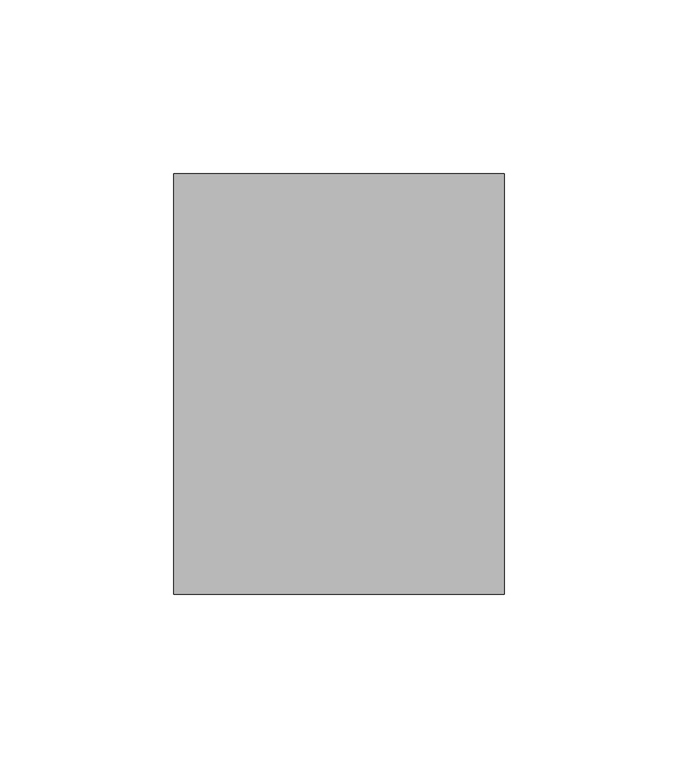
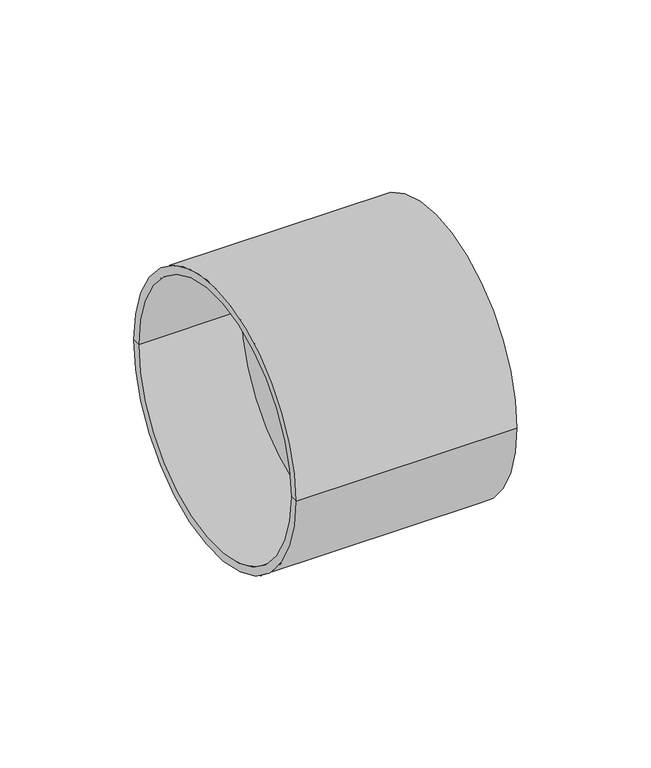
"""IFC4 building model written with IfcOpenShell, lengths in millimetres: cable carrier fitting geometry, PavcoWavin_ConduitFittings_Union : EB y DB."""

import ifcopenshell
import ifcopenshell.guid

model = None  # the IFC model being written
_history = None  # IfcOwnerHistory: only IFC2X3 demands one
_inside = {}  # id of a spatial element -> (the spatial element, [elements in it])
_under = {}  # id of a project, library or spatial element -> (it, [spatial elements below it])
_declared = {}  # id of a project -> (the project, [libraries it declares])
_typed = {}  # id of a type object -> (the type object, [elements of that type])
_made_of = {}  # id of a material, layer set ... -> (it, [elements and type objects made of it])


def new_model(schema):
    """Start an empty IFC model of exactly this schema.

    Asked for "IFC4X3", IfcOpenShell would pick the latest addendum, in which some entities
    have other attributes; the version numbers below select the first issue.
    IFC2X3 requires an IfcOwnerHistory on every rooted entity: one is made here for all.
    """
    global model, _history
    if schema == "IFC4X3":
        model = ifcopenshell.file(schema_version=(4, 3, 0, 0))
    else:
        model = ifcopenshell.file(schema=schema)
    _inside.clear()
    _under.clear()
    _declared.clear()
    _typed.clear()
    _made_of.clear()
    _history = None
    if model.schema == "IFC2X3":
        org = make("IfcOrganization", Name="unknown")
        user = make(
            "IfcPersonAndOrganization",
            ThePerson=make("IfcPerson", FamilyName="unknown"),
            TheOrganization=org,
        )
        app = make(
            "IfcApplication",
            ApplicationDeveloper=org,
            Version="unknown",
            ApplicationFullName="unknown",
            ApplicationIdentifier="unknown",
        )
        _history = make(
            "IfcOwnerHistory",
            OwningUser=user,
            OwningApplication=app,
            ChangeAction="ADDED",
            CreationDate=0,
        )
    return model


def make(cls, **values):
    """One entity of the class cls with the attributes given. An attribute that is None is left unset."""
    return model.create_entity(
        cls, **{name: value for name, value in values.items() if value is not None}
    )


def rooted(cls, **values):
    """An entity with a GlobalId (a new one), such as an element, a storey or a relation."""
    return make(cls, GlobalId=ifcopenshell.guid.new(), OwnerHistory=_history, **values)


def si_unit(unit_type, name, prefix=None):
    """IfcSIUnit, for example si_unit("LENGTHUNIT", "METRE", prefix="MILLI")."""
    return make("IfcSIUnit", UnitType=unit_type, Prefix=prefix, Name=name)


def assignment(units):
    """IfcUnitAssignment: the units of a project."""
    return None if units is None else make("IfcUnitAssignment", Units=units)


def point(xyz):
    """IfcCartesianPoint."""
    return None if xyz is None else make("IfcCartesianPoint", Coordinates=xyz)


def direction(xyz):
    """IfcDirection."""
    return None if xyz is None else make("IfcDirection", DirectionRatios=xyz)


def frame(location, z_axis=None, x_axis=None):
    """IfcAxis2Placement3D, a coordinate frame: its origin and axes. An axis left out is left unset."""
    return make(
        "IfcAxis2Placement3D",
        Location=point(location),
        Axis=direction(z_axis),
        RefDirection=direction(x_axis),
    )


def origin():
    """The frame at (0, 0, 0) with its axes left unset."""
    return frame((0.0, 0.0, 0.0))


def place(relative_to, where):
    """IfcLocalPlacement: puts the frame where relative to a parent placement (None: the world)."""
    return make(
        "IfcLocalPlacement", PlacementRelTo=relative_to, RelativePlacement=where
    )


def context(
    kind, dimensions, precision=None, world=None, true_north=None, identifier=None
):
    """IfcGeometricRepresentationContext, for example the 3D "Model" context."""
    return make(
        "IfcGeometricRepresentationContext",
        ContextIdentifier=identifier,
        ContextType=kind,
        CoordinateSpaceDimension=dimensions,
        Precision=precision,
        WorldCoordinateSystem=world,
        TrueNorth=true_north,
    )


def project(units=None, contexts=None):
    """IfcProject with its units and contexts."""
    return rooted(
        "IfcProject",
        Name="project",
        RepresentationContexts=contexts,
        UnitsInContext=assignment(units),
    )


def spatial(cls, under=None, at=None, **own):
    """A site, building, storey or space (cls), placed at a placement, below another one or the project."""
    s = rooted(cls, ObjectPlacement=at, **own)
    if under is not None:
        _under.setdefault(under.id(), (under, []))[1].append(s)
    return s


def polyline(points):
    """IfcPolyline through the points."""
    return make("IfcPolyline", Points=[point(p) for p in points])


def circle_curve(where, radius):
    """IfcCircle in the frame where."""
    return make("IfcCircle", Position=where, Radius=radius)


def shape(context_of_items, identifier, shape_type, items):
    """IfcShapeRepresentation: the items that make up one representation, for example the "Body"."""
    return make(
        "IfcShapeRepresentation",
        ContextOfItems=context_of_items,
        RepresentationIdentifier=identifier,
        RepresentationType=shape_type,
        Items=items,
    )


def source(mapping_origin, context_of_items, identifier, shape_type, items):
    """IfcRepresentationMap: a shape defined once, which mapped items show again and again."""
    return make(
        "IfcRepresentationMap",
        MappingOrigin=mapping_origin,
        MappedRepresentation=shape(context_of_items, identifier, shape_type, items),
    )


def transform(
    local_origin,
    x_axis=None,
    y_axis=None,
    z_axis=None,
    scale=None,
    scale2=None,
    scale3=None,
    uniform=True,
):
    """IfcCartesianTransformationOperator3D, or its non-uniform kind. x_axis, y_axis, z_axis: its Axis1, 2, 3."""
    if uniform:
        return make(
            "IfcCartesianTransformationOperator3D",
            Axis1=direction(x_axis),
            Axis2=direction(y_axis),
            LocalOrigin=point(local_origin),
            Scale=scale,
            Axis3=direction(z_axis),
        )
    return make(
        "IfcCartesianTransformationOperator3DnonUniform",
        Axis1=direction(x_axis),
        Axis2=direction(y_axis),
        LocalOrigin=point(local_origin),
        Scale=scale,
        Axis3=direction(z_axis),
        Scale2=scale2,
        Scale3=scale3,
    )


def mapped(mapping_source, mapping_target):
    """IfcMappedItem: shows the shape of a source again, moved by a transform."""
    return make(
        "IfcMappedItem", MappingSource=mapping_source, MappingTarget=mapping_target
    )


def made_of(thing, what):
    """Note that an element or type object is made of a material, layer set ...; save() writes the relation."""
    if what is not None:
        _made_of.setdefault(what.id(), (what, []))[1].append(thing)
    return thing


def element(
    cls,
    number,
    at=None,
    inside=None,
    cuts=None,
    type_object=None,
    material=None,
    context=None,
    identifier="Body",
    shape_type=None,
    held_by="IfcProductDefinitionShape",
    body=None,
    shapes=None,
    **own,
):
    """One element of the class cls, such as IfcWall. Its Tag is "e" and its number.

    at: its placement. inside: the storey or other place that contains it. cuts: it is an
    opening in that element (IfcRelVoidsElement). A single representation is given by context,
    identifier, shape_type and body (its items); several are given by shapes. held_by: the class
    of the entity that holds the representations. save() writes the other relations.
    """
    e = rooted(cls, Tag="e%d" % number, ObjectPlacement=at, **own)
    if body is not None:
        shapes = [shape(context, identifier, shape_type, body)]
    if shapes is not None:
        e.Representation = make(held_by, Representations=shapes)
    if inside is not None:
        _inside.setdefault(inside.id(), (inside, []))[1].append(e)
    if cuts is not None:
        rooted(
            "IfcRelVoidsElement", RelatingBuildingElement=cuts, RelatedOpeningElement=e
        )
    if type_object is not None:
        _typed.setdefault(type_object.id(), (type_object, []))[1].append(e)
    return made_of(e, material)


def aggregate(whole, parts):
    """IfcRelAggregates: a whole, such as a stair, and the parts it consists of."""
    return rooted("IfcRelAggregates", RelatingObject=whole, RelatedObjects=parts)


def save(model, path):
    """Write the relations noted so far, then the file.

    IfcRelAggregates (storeys below a building ...), IfcRelContainedInSpatialStructure (elements
    in a storey), IfcRelDefinesByType, IfcRelAssociatesMaterial and IfcRelDeclares: one each for
    every whole, place, type object, material and project.
    """
    for whole, parts in _under.values():
        aggregate(whole, parts)
    for where, things in _inside.values():
        rooted(
            "IfcRelContainedInSpatialStructure",
            RelatedElements=things,
            RelatingStructure=where,
        )
    for kind, things in _typed.values():
        rooted("IfcRelDefinesByType", RelatedObjects=things, RelatingType=kind)
    for what, things in _made_of.values():
        rooted("IfcRelAssociatesMaterial", RelatedObjects=things, RelatingMaterial=what)
    for by, libraries in _declared.values():
        rooted("IfcRelDeclares", RelatingContext=by, RelatedDefinitions=libraries)
    model.write(path)


def plane_surface(at):
    """IfcPlane: the flat surface through the origin of the frame at, square to its z axis."""
    return make("IfcPlane", Position=at)


def cylinder_surface(at, radius):
    """IfcCylindricalSurface: all points at the distance radius from the z axis of the frame at."""
    return make("IfcCylindricalSurface", Position=at, Radius=radius)


def revolved_surface(curve, axis_point, axis_direction):
    """IfcSurfaceOfRevolution: the curve turned about the line through axis_point along axis_direction."""
    return make(
        "IfcSurfaceOfRevolution",
        SweptCurve=make("IfcArbitraryOpenProfileDef", ProfileType="CURVE", Curve=curve),
        AxisPosition=make("IfcAxis1Placement", Location=point(axis_point), Axis=direction(axis_direction)),
    )


def advanced_brep(points, edges, surfaces, faces):
    """IfcAdvancedBrep: a solid bounded by faces that lie on surfaces and meet in shared edges.

    An edge is (start, end): straight between two places in points (the first is 0);
    or (start, end, curve); or (start, end, curve, False) where it runs against its curve.
    A face is (place in surfaces, loops), or (place, loops, False) where it looks against
    its surface's normal. A loop lists edges by number (the first is 1), with a minus sign
    where the edge is run from its end to its start. The first loop is the outer one.
    """
    corners = [point(p) for p in points]
    vertices = [make("IfcVertexPoint", VertexGeometry=c) for c in corners]
    made = []
    for start, end, *more in edges:
        made.append(
            make(
                "IfcEdgeCurve",
                EdgeStart=vertices[start],
                EdgeEnd=vertices[end],
                EdgeGeometry=more[0] if more else make("IfcPolyline", Points=[corners[start], corners[end]]),
                SameSense=more[1] if len(more) > 1 else True,
            )
        )
    hull = []
    for where, loops, *sense in faces:
        bounds = []
        for j, loop in enumerate(loops):
            ring = [make("IfcOrientedEdge", EdgeElement=made[abs(k) - 1], Orientation=k > 0) for k in loop]
            bounds.append(
                make(
                    "IfcFaceOuterBound" if j == 0 else "IfcFaceBound",
                    Bound=make("IfcEdgeLoop", EdgeList=ring),
                    Orientation=True,
                )
            )
        hull.append(make("IfcAdvancedFace", Bounds=bounds, FaceSurface=surfaces[where], SameSense=sense[0] if sense else True))
    return make("IfcAdvancedBrep", Outer=make("IfcClosedShell", CfsFaces=hull))


def cable_carrier_fitting_60fd3d04(model_context):
    return source(origin(), model_context, "Body", "AdvancedBrep", [
        advanced_brep(
        [(-3.175, 0.0, 0.0), (-3.175, 57.15, 0.0), (-3.175, -57.15, 0.0), (3.175, -57.15, 0.0), (3.175, 57.15, 0.0), (3.175, 0.0, 0.0), (47.625, -57.15, 0.0), (47.625, 57.15, 0.0), (47.625, -60.63, 0.0), (47.625, 60.63, 0.0), (-47.625, -60.63, 0.0), (-47.625, 60.63, 0.0), (-47.625, -57.15, 0.0), (-47.625, 57.15, 0.0)],
        [
            (0, 1),
            (1, 2, circle_curve(frame((-3.175, 0.0, 0.0), z_axis=(-1.0, 0.0, 0.0), x_axis=(0.0, 1.0, 0.0)), 57.15)),
            (2, 0),
            (2, 1, circle_curve(frame((-3.175, 0.0, 0.0), z_axis=(-1.0, 0.0, 0.0), x_axis=(0.0, 1.0, 0.0)), 57.15)),
            (3, 4, circle_curve(frame((3.175, 0.0, 0.0), z_axis=(1.0, 0.0, 0.0), x_axis=(0.0, 1.0, 0.0)), 57.15)),
            (4, 5),
            (5, 3),
            (4, 3, circle_curve(frame((3.175, 0.0, 0.0), z_axis=(1.0, 0.0, 0.0), x_axis=(0.0, 1.0, 0.0)), 57.15)),
            (6, 7, circle_curve(frame((47.625, 0.0, 0.0), z_axis=(1.0, 0.0, 0.0), x_axis=(0.0, 1.0, 0.0)), 57.15)),
            (7, 4),
            (3, 6),
            (7, 6, circle_curve(frame((47.625, 0.0, 0.0), z_axis=(1.0, 0.0, 0.0), x_axis=(0.0, 1.0, 0.0)), 57.15)),
            (8, 9, circle_curve(frame((47.625, 0.0, 0.0), z_axis=(1.0, 0.0, 0.0), x_axis=(0.0, 1.0, 0.0)), 60.63)),
            (9, 7),
            (6, 8),
            (9, 8, circle_curve(frame((47.625, 0.0, 0.0), z_axis=(1.0, 0.0, 0.0), x_axis=(0.0, 1.0, 0.0)), 60.63)),
            (10, 11, circle_curve(frame((-47.625, 0.0, 0.0), z_axis=(1.0, 0.0, 0.0), x_axis=(0.0, 1.0, 0.0)), 60.63)),
            (11, 9),
            (8, 10),
            (11, 10, circle_curve(frame((-47.625, 0.0, 0.0), z_axis=(1.0, 0.0, 0.0), x_axis=(0.0, 1.0, 0.0)), 60.63)),
            (12, 13, circle_curve(frame((-47.625, 0.0, 0.0), z_axis=(1.0, 0.0, 0.0), x_axis=(0.0, 1.0, 0.0)), 57.15)),
            (13, 11),
            (10, 12),
            (13, 12, circle_curve(frame((-47.625, 0.0, 0.0), z_axis=(1.0, 0.0, 0.0), x_axis=(0.0, 1.0, 0.0)), 57.15)),
            (1, 13),
            (12, 2),
        ],
        [
            plane_surface(frame((-3.175, 0.0, 0.0), z_axis=(-1.0, 0.0, 0.0), x_axis=(0.0, 1.0, 0.0))),
            plane_surface(frame((3.175, 0.0, 0.0), z_axis=(1.0, 0.0, 0.0), x_axis=(0.0, 1.0, 0.0))),
            revolved_surface(polyline([(3.1749999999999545, 57.15, 0.0), (47.625, 57.15, 0.0)]), (2026.985, 0.0, 0.0), (-1.0, 0.0, 0.0)),
            plane_surface(frame((47.625, 0.0, 0.0), z_axis=(1.0, 0.0, 0.0), x_axis=(0.0, 1.0, 0.0))),
            cylinder_surface(frame((2026.985, 0.0, 0.0), z_axis=(-1.0, 0.0, 0.0), x_axis=(0.0, 1.0, 0.0)), 60.63),
            plane_surface(frame((-47.625, 0.0, 0.0), z_axis=(-1.0, 0.0, 0.0), x_axis=(0.0, 1.0, 0.0))),
            revolved_surface(polyline([(-47.62499999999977, 57.15, 0.0), (-3.1749999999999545, 57.15, 0.0)]), (2026.985, 0.0, 0.0), (-1.0, 0.0, 0.0)),
        ],
        [
            (0, [[1, 2, 3]]),
            (0, [[-3, 4, -1]]),
            (1, [[5, 6, 7]]),
            (1, [[8, -7, -6]]),
            (2, [[9, 10, -5, 11]]),
            (2, [[12, -11, -8, -10]]),
            (3, [[13, 14, -9, 15]]),
            (3, [[16, -15, -12, -14]]),
            (4, [[17, 18, -13, 19]]),
            (4, [[20, -19, -16, -18]]),
            (5, [[21, 22, -17, 23]]),
            (5, [[24, -23, -20, -22]]),
            (6, [[-2, 25, -21, 26]]),
            (6, [[-4, -26, -24, -25]]),
        ],
    ),
    ])


if __name__ == "__main__":
    model = new_model("IFC4")
    model_context = context("Model", 3, world=origin())
    ifc_project = project(units=[si_unit("LENGTHUNIT", "METRE", prefix="MILLI")], contexts=[model_context])
    site = spatial("IfcSite", under=ifc_project)
    building = spatial("IfcBuilding", under=site)
    placement = place(None, origin())
    cable_carrier_fitting_shape = cable_carrier_fitting_60fd3d04(model_context)
    element("IfcCableCarrierFitting", 1, ObjectType="PavcoWavin_ConduitFittings_Union : EB y DB", at=placement, inside=building, context=model_context, shape_type="MappedRepresentation", body=[
        mapped(cable_carrier_fitting_shape, transform((0.0, 0.0, 0.0), x_axis=(1.0, 0.0, 0.0), y_axis=(0.0, 1.0, 0.0), z_axis=(0.0, 0.0, 1.0))),
    ])
    save(model, "model.ifc")
